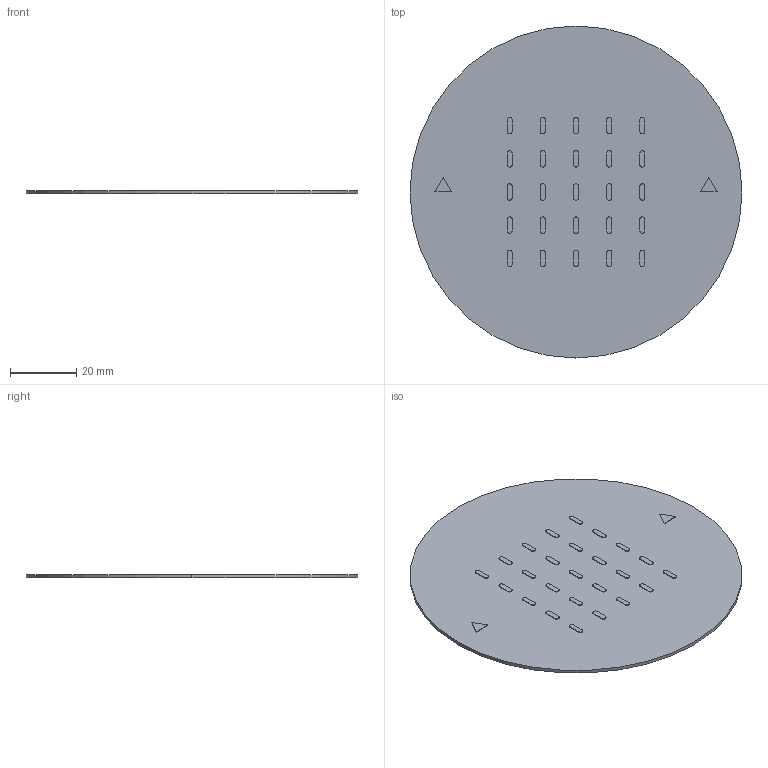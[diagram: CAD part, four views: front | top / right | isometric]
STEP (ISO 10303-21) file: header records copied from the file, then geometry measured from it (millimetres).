
FILE_DESCRIPTION(('CATIA V5 STEP Exchange'),'2;1');
FILE_NAME('C:\Users\zhook\Desktop\stp files\S3-Silicon mold.stp','2023-08-19T19:12:59+00:00',('none'),('none'),'CATIA Version 5 Release 21 GA (IN-10)','CATIA V5 STEP AP203','none');
FILE_SCHEMA(('CONFIG_CONTROL_DESIGN'));
Length unit declared in the file: millimetre
Products named in the file (1): Part2
Bounding box: 100 x 100 x 1.2 mm (x, y, z)
Volume: 7893.4 mm3; surface area: 16480.8 mm2
Topology: 28 solids, 28 shells, 166 faces, 426 edges, 316 vertices
Faces by surface type: plane 112, cylinder 54
Entity records: 4726 total; most frequent: ORIENTED_EDGE 852, CARTESIAN_POINT 845, DIRECTION 630, EDGE_CURVE 426, VERTEX_POINT 316, AXIS2_PLACEMENT_3D 307, VECTOR 222, LINE 222
